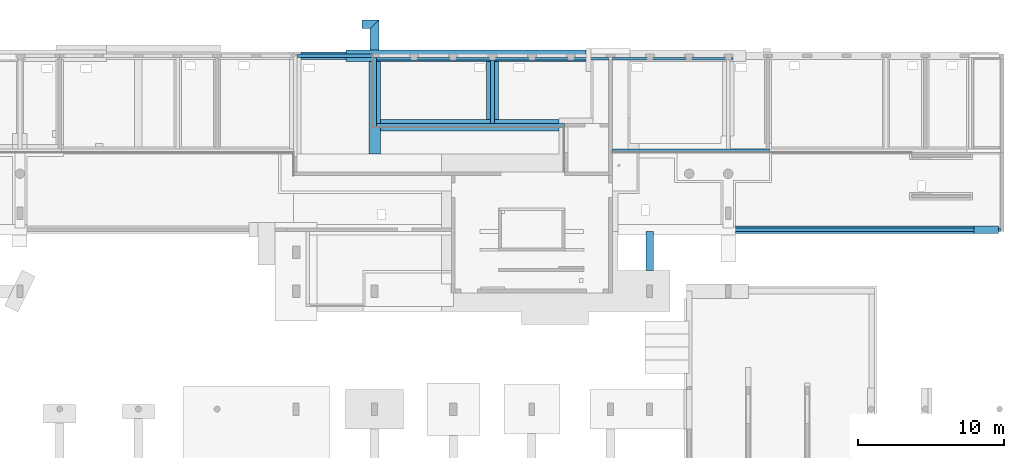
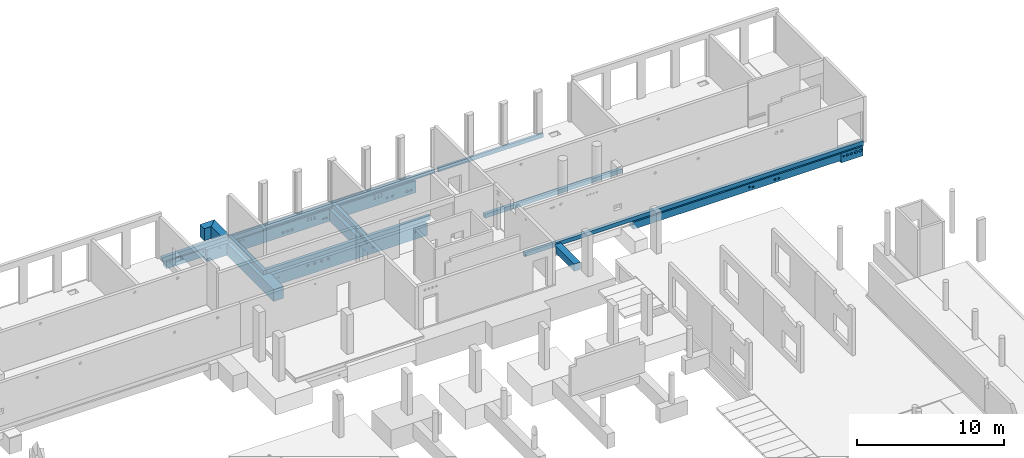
# One storey, part 7 of 60: 17 footings.
"""IFC2X3 building model written with IfcOpenShell, lengths in millimetres."""

from ifc_helpers import new_model, entity, si_unit, converted_unit, derived_unit, direction, frame, frame_2d, origin, origin_2d_with_axis, place, context, subcontext, project, spatial, polyline, circle_curve, parameter, trimmed, segment, composite_curve, rectangle, outline, extrude, material, element, save


model = new_model("IFC2X3")

# Units and contexts
model_context = context("Model", 3, precision=0.01, world=origin(), true_north=direction((6.12303176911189e-17, 1.0)))
body_context = subcontext(model_context, "Body", "Model", "MODEL_VIEW")
ifc_project = project(units=[si_unit("LENGTHUNIT", "METRE", prefix="MILLI"), si_unit("AREAUNIT", "SQUARE_METRE"), si_unit("VOLUMEUNIT", "CUBIC_METRE"), converted_unit("PLANEANGLEUNIT", "DEGREE", entity("IfcRatioMeasure", 0.0174532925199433), si_unit("PLANEANGLEUNIT", "RADIAN"), dimensions=[0, 0, 0, 0, 0, 0, 0]), si_unit("MASSUNIT", "GRAM", prefix="KILO"), derived_unit("MASSDENSITYUNIT", [(si_unit("MASSUNIT", "GRAM", prefix="KILO"), 1), (si_unit("LENGTHUNIT", "METRE"), -3)]), si_unit("TIMEUNIT", "SECOND"), si_unit("FREQUENCYUNIT", "HERTZ"), si_unit("THERMODYNAMICTEMPERATUREUNIT", "DEGREE_CELSIUS"), derived_unit("THERMALTRANSMITTANCEUNIT", [(si_unit("MASSUNIT", "GRAM", prefix="KILO"), 1), (si_unit("THERMODYNAMICTEMPERATUREUNIT", "KELVIN"), -1), (si_unit("TIMEUNIT", "SECOND"), -3)]), derived_unit("VOLUMETRICFLOWRATEUNIT", [(si_unit("LENGTHUNIT", "METRE"), 3), (si_unit("TIMEUNIT", "SECOND"), -1)]), si_unit("ELECTRICCURRENTUNIT", "AMPERE"), si_unit("ELECTRICVOLTAGEUNIT", "VOLT"), si_unit("POWERUNIT", "WATT"), si_unit("FORCEUNIT", "NEWTON", prefix="KILO"), si_unit("ILLUMINANCEUNIT", "LUX"), si_unit("LUMINOUSFLUXUNIT", "LUMEN"), si_unit("LUMINOUSINTENSITYUNIT", "CANDELA"), derived_unit("USERDEFINED", [(si_unit("MASSUNIT", "GRAM", prefix="KILO"), -1), (si_unit("LENGTHUNIT", "METRE"), -2), (si_unit("TIMEUNIT", "SECOND"), 3), (si_unit("LUMINOUSFLUXUNIT", "LUMEN"), 1)]), derived_unit("LINEARVELOCITYUNIT", [(si_unit("LENGTHUNIT", "METRE"), 1), (si_unit("TIMEUNIT", "SECOND"), -1)]), si_unit("PRESSUREUNIT", "PASCAL"), derived_unit("USERDEFINED", [(si_unit("LENGTHUNIT", "METRE"), -2), (si_unit("MASSUNIT", "GRAM", prefix="KILO"), 1), (si_unit("TIMEUNIT", "SECOND"), -2)])], contexts=[model_context])

# Site, building, storey
site_placement = place(None, origin())
site = spatial("IfcSite", under=ifc_project, at=site_placement, Name="Default", CompositionType="ELEMENT")
building_placement = place(site_placement, origin())
building = spatial("IfcBuilding", under=site, at=building_placement, Name="niet gebruiken", CompositionType="ELEMENT")
storey_placement = place(building_placement, origin())
storey = spatial("IfcBuildingStorey", under=building, at=storey_placement, Name="00 begane grond", CompositionType="ELEMENT", Elevation=0.0)

# Footings
ifc_material = material(Name="NLRS_f2_beton ihwg")
footing_1_placement = place(storey_placement, origin())
element("IfcFooting", 1, at=footing_1_placement, inside=storey, material=ifc_material, Name="NLRS_16.12_SF_WPB_opstort ihwg recht_gen:250x422", ObjectType="NLRS_16.12_SF_WPB_opstort ihwg recht_gen:250x422", PredefinedType="FOOTING_BEAM", context=body_context, shape_type="SweptSolid", body=[
    extrude(outline(polyline([(-14043.1818181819, -166.181818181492), (-13918.1818181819, -166.181818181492), (-13918.1818181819, -76.1818181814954), (9756.81818181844, -76.1818181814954), (10256.8181818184, -76.1818181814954), (12206.8181818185, -76.1818181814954), (12581.8181818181, -76.1818181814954), (12581.8181818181, 125.818181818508), (12581.8181818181, 255.818181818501), (-14043.1818181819, 255.818181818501), (-14043.1818181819, 75.8181818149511), (-14043.1818181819, -166.181818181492)])), frame((109906.818181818, 41061.0, -325.818181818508), z_axis=(0.0, 1.0, 0.0), x_axis=(-1.0, 0.0, 0.0)), (0.0, 0.0, 1.0), 250.000000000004),
])
footing_2_placement = place(storey_placement, origin())
element("IfcFooting", 2, at=footing_2_placement, inside=storey, material=ifc_material, Name="NLRS_16.12_SF_WPB_funderingsbalk ihwg recht_gen:800x1000", ObjectType="NLRS_16.12_SF_WPB_funderingsbalk ihwg recht_gen:800x1000", PredefinedType="FOOTING_BEAM", context=body_context, shape_type="SweptSolid", body=[
    extrude(rectangle(XDim=3980.0, YDim=799.999999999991, at=origin_2d_with_axis()), frame((89100.0, 50741.0, -1492.0), z_axis=(0.0, 0.0, 1.0), x_axis=(0.0, 1.0, 0.0)), (0.0, 0.0, 1.0), 999.999999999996),
])
footing_3_placement = place(storey_placement, origin())
element("IfcFooting", 3, at=footing_3_placement, inside=storey, material=ifc_material, Name="NLRS_16.12_SF_WPB_funderingsbalk ihwg recht_gen:800x1000", ObjectType="NLRS_16.12_SF_WPB_funderingsbalk ihwg recht_gen:800x1000", PredefinedType="FOOTING_BEAM", context=body_context, shape_type="SweptSolid", body=[
    extrude(outline(polyline([(-6112.49999999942, -500.0), (6112.4999999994, -500.0), (6112.4999999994, 500.0), (-6112.49999999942, 500.0), (-6112.49999999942, -500.0)]), holes=[composite_curve([segment(trimmed(circle_curve(frame_2d((5602.50000000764, 102.0), x_axis=(-1.0, 0.0)), 62.5), [parameter(3.56222124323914e-13)], [parameter(180.0)], True, "PARAMETER"), False, "CONTINUOUS"), segment(trimmed(circle_curve(frame_2d((5602.50000000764, 102.0), x_axis=(-1.0, 0.0)), 62.5), [parameter(180.0)], [parameter(360.0)], True, "PARAMETER"), False, "CONTINUOUS")], self_intersect=False), composite_curve([segment(trimmed(circle_curve(frame_2d((5877.50000000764, 102.0), x_axis=(-1.0, 0.0)), 62.5), [parameter(3.56222124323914e-13)], [parameter(180.0)], True, "PARAMETER"), False, "CONTINUOUS"), segment(trimmed(circle_curve(frame_2d((5877.50000000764, 102.0), x_axis=(-1.0, 0.0)), 62.5), [parameter(180.0)], [parameter(360.0)], True, "PARAMETER"), False, "CONTINUOUS")], self_intersect=False), composite_curve([segment(trimmed(circle_curve(frame_2d((-5162.61962362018, 92.0), x_axis=(-1.0, 0.0)), 55.0000000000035), [parameter(0.0)], [parameter(179.999999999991)], True, "PARAMETER"), False, "CONTINUOUS"), segment(trimmed(circle_curve(frame_2d((-5162.61962362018, 92.0), x_axis=(1.0, 0.0)), 55.0000000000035), [parameter(0.0)], [parameter(179.999999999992)], True, "PARAMETER"), False, "CONTINUOUS")], self_intersect=False), composite_curve([segment(trimmed(circle_curve(frame_2d((2217.50000000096, 277.0), x_axis=(1.0, 0.0)), 100.0), [parameter(180.0)], [parameter(360.0)], True, "PARAMETER"), False, "CONTINUOUS"), segment(trimmed(circle_curve(frame_2d((2217.50000000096, 277.0), x_axis=(1.0, 0.0)), 100.0), [parameter(4.07110999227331e-13)], [parameter(180.0)], True, "PARAMETER"), False, "CONTINUOUS")], self_intersect=False), composite_curve([segment(trimmed(circle_curve(frame_2d((1677.50000000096, 277.0), x_axis=(1.0, 0.0)), 100.0), [parameter(180.0)], [parameter(360.0)], True, "PARAMETER"), False, "CONTINUOUS"), segment(trimmed(circle_curve(frame_2d((1677.50000000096, 277.0), x_axis=(1.0, 0.0)), 100.0), [parameter(4.07110999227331e-13)], [parameter(180.0)], True, "PARAMETER"), False, "CONTINUOUS")], self_intersect=False), composite_curve([segment(trimmed(circle_curve(frame_2d((2757.50000000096, 277.0), x_axis=(1.0, 0.0)), 100.0), [parameter(180.0)], [parameter(360.0)], True, "PARAMETER"), False, "CONTINUOUS"), segment(trimmed(circle_curve(frame_2d((2757.50000000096, 277.0), x_axis=(1.0, 0.0)), 100.0), [parameter(4.07110999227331e-13)], [parameter(180.0)], True, "PARAMETER"), False, "CONTINUOUS")], self_intersect=False), composite_curve([segment(trimmed(circle_curve(frame_2d((3297.50000000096, 277.0), x_axis=(1.0, 0.0)), 100.0), [parameter(180.0)], [parameter(360.0)], True, "PARAMETER"), False, "CONTINUOUS"), segment(trimmed(circle_curve(frame_2d((3297.50000000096, 277.0), x_axis=(1.0, 0.0)), 100.0), [parameter(4.07110999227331e-13)], [parameter(180.0)], True, "PARAMETER"), False, "CONTINUOUS")], self_intersect=False)]), frame((87537.4999999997, 47951.0, -992.0), z_axis=(0.0, 1.0, 0.0), x_axis=(-1.0, 0.0, 0.0)), (0.0, 0.0, 1.0), 800.0),
])
footing_4_placement = place(storey_placement, origin())
element("IfcFooting", 4, at=footing_4_placement, inside=storey, material=ifc_material, Name="NLRS_16.12_SF_WPB_funderingsbalk ihwg recht_gen:800x1000", ObjectType="NLRS_16.12_SF_WPB_funderingsbalk ihwg recht_gen:800x1000", PredefinedType="FOOTING_BEAM", context=body_context, shape_type="SweptSolid", body=[
    extrude(outline(polyline([(-6750.0, -500.0), (-5175.0, -500.0), (-4375.0, -500.0), (2900.0, -500.0), (3700.0, -500.0), (9700.0, -500.0), (9700.0, 500.0), (3700.0, 500.0), (2900.0, 500.0), (-4375.0, 500.0), (-5175.0, 500.0), (-6750.0, 500.0), (-6750.0, -500.0)]), holes=[composite_curve([segment(trimmed(circle_curve(frame_2d((-5750.0, -312.0), x_axis=(1.0, 0.0)), 55.0), [parameter(4.07110999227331e-13)], [parameter(180.0)], True, "PARAMETER"), False, "CONTINUOUS"), segment(trimmed(circle_curve(frame_2d((-5750.0, -312.0), x_axis=(1.0, 0.0)), 55.0), [parameter(180.0)], [parameter(360.0)], True, "PARAMETER"), False, "CONTINUOUS")], self_intersect=False), composite_curve([segment(trimmed(circle_curve(frame_2d((-3865.0, -312.0), x_axis=(1.0, 0.0)), 55.0), [parameter(4.07110999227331e-13)], [parameter(180.0)], True, "PARAMETER"), False, "CONTINUOUS"), segment(trimmed(circle_curve(frame_2d((-3865.0, -312.0), x_axis=(1.0, 0.0)), 55.0), [parameter(180.0)], [parameter(360.0)], True, "PARAMETER"), False, "CONTINUOUS")], self_intersect=False), composite_curve([segment(trimmed(circle_curve(frame_2d((-4140.0, -312.0), x_axis=(1.0, 0.0)), 55.0), [parameter(4.07110999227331e-13)], [parameter(180.0)], True, "PARAMETER"), False, "CONTINUOUS"), segment(trimmed(circle_curve(frame_2d((-4140.0, -312.0), x_axis=(1.0, 0.0)), 55.0), [parameter(180.0)], [parameter(360.0)], True, "PARAMETER"), False, "CONTINUOUS")], self_intersect=False), composite_curve([segment(trimmed(circle_curve(frame_2d((-49.8763225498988, 158.0), x_axis=(1.0, 0.0)), 100.0), [parameter(4.07110999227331e-13)], [parameter(180.0)], True, "PARAMETER"), False, "CONTINUOUS"), segment(trimmed(circle_curve(frame_2d((-49.8763225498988, 158.0), x_axis=(1.0, 0.0)), 100.0), [parameter(180.0)], [parameter(360.0)], True, "PARAMETER"), False, "CONTINUOUS")], self_intersect=False), composite_curve([segment(trimmed(circle_curve(frame_2d((1450.0, -117.0), x_axis=(-1.0, 0.0)), 62.5), [parameter(180.0)], [parameter(360.0)], True, "PARAMETER"), False, "CONTINUOUS"), segment(trimmed(circle_curve(frame_2d((1450.0, -117.0), x_axis=(-1.0, 0.0)), 62.5), [parameter(3.56222124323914e-13)], [parameter(180.0)], True, "PARAMETER"), False, "CONTINUOUS")], self_intersect=False), composite_curve([segment(trimmed(circle_curve(frame_2d((1725.0, -117.0), x_axis=(-1.0, 0.0)), 62.5), [parameter(180.0)], [parameter(360.0)], True, "PARAMETER"), False, "CONTINUOUS"), segment(trimmed(circle_curve(frame_2d((1725.0, -117.0), x_axis=(-1.0, 0.0)), 62.5), [parameter(3.56222124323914e-13)], [parameter(180.0)], True, "PARAMETER"), False, "CONTINUOUS")], self_intersect=False), composite_curve([segment(trimmed(circle_curve(frame_2d((1200.0, -117.0), x_axis=(-1.0, 0.0)), 37.5), [parameter(180.0)], [parameter(360.0)], True, "PARAMETER"), False, "CONTINUOUS"), segment(trimmed(circle_curve(frame_2d((1200.0, -117.0), x_axis=(-1.0, 0.0)), 37.5), [parameter(4.07110999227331e-13)], [parameter(180.0)], True, "PARAMETER"), False, "CONTINUOUS")], self_intersect=False), composite_curve([segment(trimmed(circle_curve(frame_2d((1200.0, -317.0), x_axis=(-1.0, 0.0)), 40.0), [parameter(180.0)], [parameter(360.0)], True, "PARAMETER"), False, "CONTINUOUS"), segment(trimmed(circle_curve(frame_2d((1200.0, -317.0), x_axis=(-1.0, 0.0)), 40.0), [parameter(4.07110999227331e-13)], [parameter(180.0)], True, "PARAMETER"), False, "CONTINUOUS")], self_intersect=False), composite_curve([segment(trimmed(circle_curve(frame_2d((1450.0, -317.0), x_axis=(-1.0, 0.0)), 37.5), [parameter(180.0)], [parameter(360.0)], True, "PARAMETER"), False, "CONTINUOUS"), segment(trimmed(circle_curve(frame_2d((1450.0, -317.0), x_axis=(-1.0, 0.0)), 37.5), [parameter(6.10666498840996e-13)], [parameter(180.0)], True, "PARAMETER"), False, "CONTINUOUS")], self_intersect=False), composite_curve([segment(trimmed(circle_curve(frame_2d((1725.0, -317.0), x_axis=(-1.0, 0.0)), 40.0), [parameter(180.0)], [parameter(360.0)], True, "PARAMETER"), False, "CONTINUOUS"), segment(trimmed(circle_curve(frame_2d((1725.0, -317.0), x_axis=(-1.0, 0.0)), 40.0), [parameter(5.5977762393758e-13)], [parameter(180.0)], True, "PARAMETER"), False, "CONTINUOUS")], self_intersect=False), composite_curve([segment(trimmed(circle_curve(frame_2d((-399.876322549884, 158.0), x_axis=(1.0, 0.0)), 100.0), [parameter(4.07110999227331e-13)], [parameter(180.0)], True, "PARAMETER"), False, "CONTINUOUS"), segment(trimmed(circle_curve(frame_2d((-399.876322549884, 158.0), x_axis=(1.0, 0.0)), 100.0), [parameter(180.0)], [parameter(360.0)], True, "PARAMETER"), False, "CONTINUOUS")], self_intersect=False), composite_curve([segment(trimmed(circle_curve(frame_2d((-749.876322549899, 158.0), x_axis=(1.0, 0.0)), 100.0), [parameter(4.07110999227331e-13)], [parameter(180.0)], True, "PARAMETER"), False, "CONTINUOUS"), segment(trimmed(circle_curve(frame_2d((-749.876322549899, 158.0), x_axis=(1.0, 0.0)), 100.0), [parameter(180.0)], [parameter(360.0)], True, "PARAMETER"), False, "CONTINUOUS")], self_intersect=False), composite_curve([segment(trimmed(circle_curve(frame_2d((2425.23159650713, 138.0), x_axis=(-1.0, 0.0)), 80.0), [parameter(180.0)], [parameter(360.0)], True, "PARAMETER"), False, "CONTINUOUS"), segment(trimmed(circle_curve(frame_2d((2425.23159650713, 138.0), x_axis=(-1.0, 0.0)), 80.0), [parameter(3.05333249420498e-13)], [parameter(180.0)], True, "PARAMETER"), False, "CONTINUOUS")], self_intersect=False), composite_curve([segment(trimmed(circle_curve(frame_2d((2675.12367745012, 138.0), x_axis=(-1.0, 0.0)), 80.0), [parameter(180.0)], [parameter(360.0)], True, "PARAMETER"), False, "CONTINUOUS"), segment(trimmed(circle_curve(frame_2d((2675.12367745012, 138.0), x_axis=(-1.0, 0.0)), 80.0), [parameter(4.07110999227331e-13)], [parameter(180.0)], True, "PARAMETER"), False, "CONTINUOUS")], self_intersect=False), composite_curve([segment(trimmed(circle_curve(frame_2d((7000.01685873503, -117.0), x_axis=(1.0, 0.0)), 37.5), [parameter(4.07110999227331e-13)], [parameter(180.0)], True, "PARAMETER"), False, "CONTINUOUS"), segment(trimmed(circle_curve(frame_2d((7000.01685873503, -117.0), x_axis=(1.0, 0.0)), 37.5), [parameter(180.0)], [parameter(360.0)], True, "PARAMETER"), False, "CONTINUOUS")], self_intersect=False), composite_curve([segment(trimmed(circle_curve(frame_2d((6750.01685873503, -117.0), x_axis=(1.0, 0.0)), 62.5), [parameter(3.56222124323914e-13)], [parameter(180.0)], True, "PARAMETER"), False, "CONTINUOUS"), segment(trimmed(circle_curve(frame_2d((6750.01685873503, -117.0), x_axis=(1.0, 0.0)), 62.5), [parameter(180.0)], [parameter(360.0)], True, "PARAMETER"), False, "CONTINUOUS")], self_intersect=False), composite_curve([segment(trimmed(circle_curve(frame_2d((6475.01685873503, -117.0), x_axis=(1.0, 0.0)), 62.5), [parameter(3.56222124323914e-13)], [parameter(180.0)], True, "PARAMETER"), False, "CONTINUOUS"), segment(trimmed(circle_curve(frame_2d((6475.01685873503, -117.0), x_axis=(1.0, 0.0)), 62.5), [parameter(180.0)], [parameter(360.0)], True, "PARAMETER"), False, "CONTINUOUS")], self_intersect=False), composite_curve([segment(trimmed(circle_curve(frame_2d((6475.01685873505, -317.0), x_axis=(1.0, 0.0)), 40.0), [parameter(2.03555499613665e-13)], [parameter(180.0)], True, "PARAMETER"), False, "CONTINUOUS"), segment(trimmed(circle_curve(frame_2d((6475.01685873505, -317.0), x_axis=(1.0, 0.0)), 40.0), [parameter(180.0)], [parameter(359.999999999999)], True, "PARAMETER"), False, "CONTINUOUS")], self_intersect=False), composite_curve([segment(trimmed(circle_curve(frame_2d((6750.01685873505, -317.0), x_axis=(1.0, 0.0)), 37.5), [parameter(2.03555499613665e-13)], [parameter(180.0)], True, "PARAMETER"), False, "CONTINUOUS"), segment(trimmed(circle_curve(frame_2d((6750.01685873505, -317.0), x_axis=(1.0, 0.0)), 37.5), [parameter(180.0)], [parameter(359.999999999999)], True, "PARAMETER"), False, "CONTINUOUS")], self_intersect=False), composite_curve([segment(trimmed(circle_curve(frame_2d((7000.0, -317.0), x_axis=(1.0, 0.0)), 40.0), [parameter(2.03555499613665e-13)], [parameter(180.0)], True, "PARAMETER"), False, "CONTINUOUS"), segment(trimmed(circle_curve(frame_2d((7000.0, -317.0), x_axis=(1.0, 0.0)), 40.0), [parameter(180.0)], [parameter(359.999999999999)], True, "PARAMETER"), False, "CONTINUOUS")], self_intersect=False), composite_curve([segment(trimmed(circle_curve(frame_2d((7440.0, 138.0), x_axis=(1.0, 0.0)), 80.0), [parameter(3.05333249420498e-13)], [parameter(180.0)], True, "PARAMETER"), False, "CONTINUOUS"), segment(trimmed(circle_curve(frame_2d((7440.0, 138.0), x_axis=(1.0, 0.0)), 80.0), [parameter(180.0)], [parameter(360.0)], True, "PARAMETER"), False, "CONTINUOUS")], self_intersect=False), composite_curve([segment(trimmed(circle_curve(frame_2d((7850.0, 138.0), x_axis=(1.0, 0.0)), 80.0), [parameter(3.05333249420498e-13)], [parameter(180.0)], True, "PARAMETER"), False, "CONTINUOUS"), segment(trimmed(circle_curve(frame_2d((7850.0, 138.0), x_axis=(1.0, 0.0)), 80.0), [parameter(180.0)], [parameter(360.0)], True, "PARAMETER"), False, "CONTINUOUS")], self_intersect=False), composite_curve([segment(trimmed(circle_curve(frame_2d((9020.0, 158.0), x_axis=(-1.0, 0.0)), 100.0), [parameter(180.0)], [parameter(360.0)], True, "PARAMETER"), False, "CONTINUOUS"), segment(trimmed(circle_curve(frame_2d((9020.0, 158.0), x_axis=(-1.0, 0.0)), 100.0), [parameter(4.07110999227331e-13)], [parameter(180.0)], True, "PARAMETER"), False, "CONTINUOUS")], self_intersect=False), composite_curve([segment(trimmed(circle_curve(frame_2d((9320.0, 158.0), x_axis=(-1.0, 0.0)), 80.0), [parameter(180.0)], [parameter(360.0)], True, "PARAMETER"), False, "CONTINUOUS"), segment(trimmed(circle_curve(frame_2d((9320.0, 158.0), x_axis=(-1.0, 0.0)), 80.0), [parameter(5.08888749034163e-13)], [parameter(180.0)], True, "PARAMETER"), False, "CONTINUOUS")], self_intersect=False)]), frame((85800.0, 52731.0, -992.0), z_axis=(0.0, 1.0, 0.0), x_axis=(1.0, 0.0, 0.0)), (0.0, 0.0, 1.0), 800.0),
])
footing_5_placement = place(storey_placement, origin())
element("IfcFooting", 5, at=footing_5_placement, inside=storey, material=ifc_material, Name="NLRS_16.12_SF_WPB_funderingsbalk ihwg recht_gen:800x1000", ObjectType="NLRS_16.12_SF_WPB_funderingsbalk ihwg recht_gen:800x1000", PredefinedType="FOOTING_BEAM", context=body_context, shape_type="SweptSolid", body=[
    extrude(rectangle(XDim=6350.00000000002, YDim=799.999999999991, at=frame_2d((401.666666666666, 133.333333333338), x_axis=(1.0, 0.0))), frame((81158.3333333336, 49154.3333333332, -1492.0), z_axis=(0.0, 0.0, 1.0), x_axis=(0.0, 1.0, 0.0)), (0.0, 0.0, 1.0), 999.999999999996),
])
footing_6_placement = place(storey_placement, origin())
element("IfcFooting", 6, at=footing_6_placement, inside=storey, material=ifc_material, Name="NLRS_16.12_SF_WPB_opstort ihwg recht_gen:250x332", ObjectType="NLRS_16.12_SF_WPB_opstort ihwg recht_gen:250x332", PredefinedType="FOOTING_BEAM", context=body_context, shape_type="SweptSolid", body=[
    extrude(rectangle(XDim=5160.00000000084, YDim=250.000000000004, at=frame_2d((0.0, -4.33431068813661e-12), x_axis=(1.0, 0.0))), frame((78300.0, 53131.0, -492.0)), (0.0, 0.0, 1.0), 331.999999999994),
])
footing_7_placement = place(storey_placement, origin())
element("IfcFooting", 7, at=footing_7_placement, inside=storey, material=ifc_material, Name="NLRS_16.12_SF_WPB_opstort ihwg recht_gen:250x332", ObjectType="NLRS_16.12_SF_WPB_opstort ihwg recht_gen:250x332", PredefinedType="FOOTING_BEAM", context=body_context, shape_type="SweptSolid", body=[
    extrude(rectangle(XDim=10800.0, YDim=250.000000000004, at=frame_2d((613.636363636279, 11.3636363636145), x_axis=(1.0, 0.0))), frame((103338.636363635, 46632.3636363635, -492.0), z_axis=(0.0, 0.0, 1.0), x_axis=(-1.0, 0.0, 0.0)), (0.0, 0.0, 1.0), 331.999999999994),
])
footing_8_placement = place(storey_placement, origin())
element("IfcFooting", 8, at=footing_8_placement, inside=storey, material=ifc_material, Name="NLRS_16.12_SF_WPB_opstort ihwg recht_gen:250x332", ObjectType="NLRS_16.12_SF_WPB_opstort ihwg recht_gen:250x332", PredefinedType="FOOTING_BEAM", context=body_context, shape_type="SweptSolid", body=[
    extrude(rectangle(XDim=12874.9999999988, YDim=249.999999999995, at=frame_2d((-504.166666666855, -41.6666666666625), x_axis=(1.0, 0.0))), frame((88091.6666666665, 48392.6666666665, -492.0)), (0.0, 0.0, 1.0), 331.999999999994),
])
footing_9_placement = place(storey_placement, origin())
element("IfcFooting", 9, at=footing_9_placement, inside=storey, material=ifc_material, Name="NLRS_16.12_SF_WPB_opstort ihwg recht_gen:250x332", ObjectType="NLRS_16.12_SF_WPB_opstort ihwg recht_gen:250x332", PredefinedType="FOOTING_BEAM", context=body_context, shape_type="SweptSolid", body=[
    extrude(rectangle(XDim=4780.00000000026, YDim=249.999999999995, at=frame_2d((-14.9999999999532, 41.6666666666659), x_axis=(1.0, 0.0))), frame((81066.666666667, 50631.0, -492.0), z_axis=(0.0, 0.0, 1.0), x_axis=(0.0, 1.0, 0.0)), (0.0, 0.0, 1.0), 331.999999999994),
])
footing_10_placement = place(storey_placement, origin())
element("IfcFooting", 10, at=footing_10_placement, inside=storey, material=ifc_material, Name="NLRS_16.12_SF_WPB_opstort ihwg recht_gen:250x332", ObjectType="NLRS_16.12_SF_WPB_opstort ihwg recht_gen:250x332", PredefinedType="FOOTING_BEAM", context=body_context, shape_type="SweptSolid", body=[
    extrude(rectangle(XDim=4369.99999999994, YDim=249.999999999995, at=frame_2d((0.0, -8.66151594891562e-12), x_axis=(1.0, 0.0))), frame((89100.0, 50661.0, -492.0), z_axis=(0.0, 0.0, 1.0), x_axis=(0.0, 1.0, 0.0)), (0.0, 0.0, 1.0), 331.999999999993),
])
footing_11_placement = place(storey_placement, origin())
element("IfcFooting", 11, at=footing_11_placement, inside=storey, material=ifc_material, Name="NLRS_16.12_SF_WPB_opstort ihwg recht_gen:410x332", ObjectType="NLRS_16.12_SF_WPB_opstort ihwg recht_gen:410x332", PredefinedType="FOOTING_BEAM", context=body_context, shape_type="SweptSolid", body=[
    extrude(rectangle(XDim=8285.00000000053, YDim=160.000000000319, at=frame_2d((649.642857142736, -34.2857142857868), x_axis=(1.0, 0.0))), frame((102117.142857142, 52891.7142857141, -492.0), z_axis=(0.0, 0.0, 1.0), x_axis=(-1.0, 0.0, 0.0)), (0.0, 0.0, 1.0), 331.999999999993),
    extrude(rectangle(XDim=15924.9999999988, YDim=160.000000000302, at=frame_2d((-980.357142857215, 34.2857142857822), x_axis=(1.0, 0.0))), frame((90092.8571428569, 52891.7142857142, -492.0)), (0.0, 0.0, 1.0), 331.999999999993),
])
footing_12_placement = place(storey_placement, origin())
element("IfcFooting", 12, at=footing_12_placement, inside=storey, material=ifc_material, Name="NLRS_16.12_SF_WPB_funderingsbalk ihwg recht_gen:500x600", ObjectType="NLRS_16.12_SF_WPB_funderingsbalk ihwg recht_gen:500x600", PredefinedType="FOOTING_BEAM", context=body_context, shape_type="SweptSolid", body=[
    extrude(outline(polyline([(-1537.49999999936, -300.0), (1537.49999999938, -300.0), (1537.49999999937, 300.0), (-1537.49999999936, 300.0), (-1537.49999999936, -300.0)]), holes=[composite_curve([segment(trimmed(circle_curve(frame_2d((-1362.4999999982, 112.0), x_axis=(-1.0, 0.0)), 62.5), [parameter(3.56222124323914e-13)], [parameter(180.0)], True, "PARAMETER"), False, "CONTINUOUS"), segment(trimmed(circle_curve(frame_2d((-1362.4999999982, 112.0), x_axis=(-1.0, 0.0)), 62.5), [parameter(180.0)], [parameter(360.0)], True, "PARAMETER"), False, "CONTINUOUS")], self_intersect=False), composite_curve([segment(trimmed(circle_curve(frame_2d((1262.50000000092, 142.0), x_axis=(-1.0, 0.0)), 40.0), [parameter(4.07110999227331e-13)], [parameter(180.0)], True, "PARAMETER"), False, "CONTINUOUS"), segment(trimmed(circle_curve(frame_2d((1262.50000000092, 142.0), x_axis=(-1.0, 0.0)), 40.0), [parameter(180.0)], [parameter(360.0)], True, "PARAMETER"), False, "CONTINUOUS")], self_intersect=False), composite_curve([segment(trimmed(circle_curve(frame_2d((312.500000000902, 142.0), x_axis=(-1.0, 0.0)), 40.0), [parameter(4.07110999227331e-13)], [parameter(180.0)], True, "PARAMETER"), False, "CONTINUOUS"), segment(trimmed(circle_curve(frame_2d((312.500000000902, 142.0), x_axis=(-1.0, 0.0)), 40.0), [parameter(180.0)], [parameter(360.0)], True, "PARAMETER"), False, "CONTINUOUS")], self_intersect=False)]), frame((77512.4999999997, 52881.0, -792.0), z_axis=(0.0, 1.0, 0.0), x_axis=(-1.0, 0.0, 0.0)), (0.0, 0.0, 1.0), 499.999999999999),
])
footing_13_placement = place(storey_placement, origin())
element("IfcFooting", 13, at=footing_13_placement, inside=storey, material=ifc_material, Name="NLRS_16.12_SF_WPB_funderingsbalk ihwg recht_gen:500x600", ObjectType="NLRS_16.12_SF_WPB_funderingsbalk ihwg recht_gen:500x600", PredefinedType="FOOTING_BEAM", context=body_context, shape_type="SweptSolid", body=[
    extrude(outline(polyline([(-1711.6666666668, -332.666666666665), (743.333333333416, -332.666666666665), (743.333333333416, 65.3333333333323), (968.333333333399, 65.3333333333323), (968.333333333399, 267.333333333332), (-1711.6666666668, 267.333333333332), (-1711.6666666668, -332.666666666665)])), frame((99650.0, 40092.6666666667, -467.333333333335), z_axis=(1.0, 0.0, 0.0), x_axis=(0.0, 1.0, 0.0)), (0.0, 0.0, 1.0), 499.99999999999),
])
footing_14_placement = place(storey_placement, origin())
element("IfcFooting", 14, at=footing_14_placement, inside=storey, material=ifc_material, Name="NLRS_16.12_SF_WPB_funderingsbalk ihwg recht_gen:500x600", ObjectType="NLRS_16.12_SF_WPB_funderingsbalk ihwg recht_gen:500x600", PredefinedType="FOOTING_BEAM", context=body_context, shape_type="SweptSolid", body=[
    extrude(outline(polyline([(-9810.0, -342.0), (6540.0, -342.0), (6540.0, 168.0), (6540.0, 258.0), (-9810.0, 258.0), (-9810.0, -342.0)]), holes=[composite_curve([segment(trimmed(circle_curve(frame_2d((-2885.0, -90.0), x_axis=(-1.0, 0.0)), 80.0), [parameter(3.05333249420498e-13)], [parameter(180.0)], True, "PARAMETER"), False, "CONTINUOUS"), segment(trimmed(circle_curve(frame_2d((-2885.0, -90.0), x_axis=(-1.0, 0.0)), 80.0), [parameter(180.0)], [parameter(360.0)], True, "PARAMETER"), False, "CONTINUOUS")], self_intersect=False), composite_curve([segment(trimmed(circle_curve(frame_2d((-2585.0, -10.0), x_axis=(-1.0, 0.0)), 80.0), [parameter(3.05333249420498e-13)], [parameter(180.0)], True, "PARAMETER"), False, "CONTINUOUS"), segment(trimmed(circle_curve(frame_2d((-2585.0, -10.0), x_axis=(-1.0, 0.0)), 80.0), [parameter(180.0)], [parameter(360.0)], True, "PARAMETER"), False, "CONTINUOUS")], self_intersect=False), composite_curve([segment(trimmed(circle_curve(frame_2d((-4605.0, -90.0), x_axis=(-1.0, 0.0)), 80.0), [parameter(3.05333249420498e-13)], [parameter(180.0)], True, "PARAMETER"), False, "CONTINUOUS"), segment(trimmed(circle_curve(frame_2d((-4605.0, -90.0), x_axis=(-1.0, 0.0)), 80.0), [parameter(180.0)], [parameter(360.0)], True, "PARAMETER"), False, "CONTINUOUS")], self_intersect=False), composite_curve([segment(trimmed(circle_curve(frame_2d((-4905.0, -90.0), x_axis=(-1.0, 0.0)), 80.0), [parameter(3.05333249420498e-13)], [parameter(180.0)], True, "PARAMETER"), False, "CONTINUOUS"), segment(trimmed(circle_curve(frame_2d((-4905.0, -90.0), x_axis=(-1.0, 0.0)), 80.0), [parameter(180.0)], [parameter(360.0)], True, "PARAMETER"), False, "CONTINUOUS")], self_intersect=False)]), frame((112315.0, 40936.0, -660.0), z_axis=(0.0, 1.0, 0.0), x_axis=(-1.0, 0.0, 0.0)), (0.0, 0.0, 1.0), 499.999999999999),
])
footing_15_placement = place(storey_placement, origin())
element("IfcFooting", 15, at=footing_15_placement, inside=storey, material=ifc_material, Name="NLRS_16.12_SF_WPB_funderingsbalk ihwg recht_gen:600x1000", ObjectType="NLRS_16.12_SF_WPB_funderingsbalk ihwg recht_gen:600x1000", PredefinedType="FOOTING_BEAM", context=body_context, shape_type="SweptSolid", body=[
    extrude(outline(polyline([(-575.0, -300.0), (875.0, -300.0), (875.0, 300.0), (-1175.0, 300.0), (-575.0, -300.0)])), frame((81000.0, 54406.0, -1492.0), z_axis=(0.0, 0.0, 1.0), x_axis=(0.0, -1.0, 0.0)), (0.0, 0.0, 1.0), 999.999999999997),
])
footing_16_placement = place(storey_placement, origin())
element("IfcFooting", 16, at=footing_16_placement, inside=storey, material=ifc_material, Name="NLRS_16.12_SF_WPB_funderingsbalk ihwg recht_gen:600x1000", ObjectType="NLRS_16.12_SF_WPB_funderingsbalk ihwg recht_gen:600x1000", PredefinedType="FOOTING_BEAM", context=body_context, shape_type="SweptSolid", body=[
    extrude(outline(polyline([(-422.50000000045, -300.0), (122.500000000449, -300.0), (722.500000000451, 300.0), (-422.50000000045, 300.0), (-422.50000000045, -300.0)])), frame((80577.4999999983, 55281.0, -1492.0)), (0.0, 0.0, 1.0), 999.999999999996),
])
footing_17_placement = place(storey_placement, origin())
element("IfcFooting", 17, at=footing_17_placement, inside=storey, material=ifc_material, Name="NLRS_16.12_SF_WPB_funderingsbalk ihwg recht_gen:500x798", ObjectType="NLRS_16.12_SF_WPB_funderingsbalk ihwg recht_gen:500x798", PredefinedType="FOOTING_BEAM", context=body_context, shape_type="SweptSolid", body=[
    extrude(outline(polyline([(-680.0, -439.199999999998), (1020.0, -439.199999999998), (1020.0, 358.799999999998), (-680.0, 358.799999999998), (-680.0, 160.799999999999), (-680.0, -439.199999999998)]), holes=[composite_curve([segment(trimmed(circle_curve(frame_2d((-474.781070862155, -141.200000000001), x_axis=(1.0, 0.0)), 62.5), [parameter(3.56222124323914e-13)], [parameter(180.0)], True, "PARAMETER"), False, "CONTINUOUS"), segment(trimmed(circle_curve(frame_2d((-474.781070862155, -141.200000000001), x_axis=(1.0, 0.0)), 62.5), [parameter(180.0)], [parameter(360.0)], True, "PARAMETER"), False, "CONTINUOUS")], self_intersect=False), composite_curve([segment(trimmed(circle_curve(frame_2d((-189.78107086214, -141.200000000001), x_axis=(1.0, 0.0)), 100.0), [parameter(4.07110999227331e-13)], [parameter(180.0)], True, "PARAMETER"), False, "CONTINUOUS"), segment(trimmed(circle_curve(frame_2d((-189.78107086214, -141.200000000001), x_axis=(1.0, 0.0)), 100.0), [parameter(180.0)], [parameter(360.0)], True, "PARAMETER"), False, "CONTINUOUS")], self_intersect=False), composite_curve([segment(trimmed(circle_curve(frame_2d((130.21892913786, -141.200000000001), x_axis=(1.0, 0.0)), 100.0), [parameter(4.07110999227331e-13)], [parameter(180.0)], True, "PARAMETER"), False, "CONTINUOUS"), segment(trimmed(circle_curve(frame_2d((130.21892913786, -141.200000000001), x_axis=(1.0, 0.0)), 100.0), [parameter(180.0)], [parameter(360.0)], True, "PARAMETER"), False, "CONTINUOUS")], self_intersect=False), composite_curve([segment(trimmed(circle_curve(frame_2d((475.130678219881, -141.200000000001), x_axis=(1.0, 0.0)), 125.0), [parameter(3.05333249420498e-13)], [parameter(180.0)], True, "PARAMETER"), False, "CONTINUOUS"), segment(trimmed(circle_curve(frame_2d((475.130678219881, -141.200000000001), x_axis=(1.0, 0.0)), 125.0), [parameter(180.0)], [parameter(360.0)], True, "PARAMETER"), False, "CONTINUOUS")], self_intersect=False), composite_curve([segment(trimmed(circle_curve(frame_2d((845.182035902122, -141.200000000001), x_axis=(1.0, 0.0)), 125.0), [parameter(3.05333249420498e-13)], [parameter(180.0)], True, "PARAMETER"), False, "CONTINUOUS"), segment(trimmed(circle_curve(frame_2d((845.182035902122, -141.200000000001), x_axis=(1.0, 0.0)), 125.0), [parameter(180.0)], [parameter(360.0)], True, "PARAMETER"), False, "CONTINUOUS")], self_intersect=False)]), frame((122805.0, 40936.0, -841.200000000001), z_axis=(0.0, 1.0, 0.0), x_axis=(1.0, 0.0, 0.0)), (0.0, 0.0, 1.0), 499.999999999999),
])

save(model, "model.ifc")
